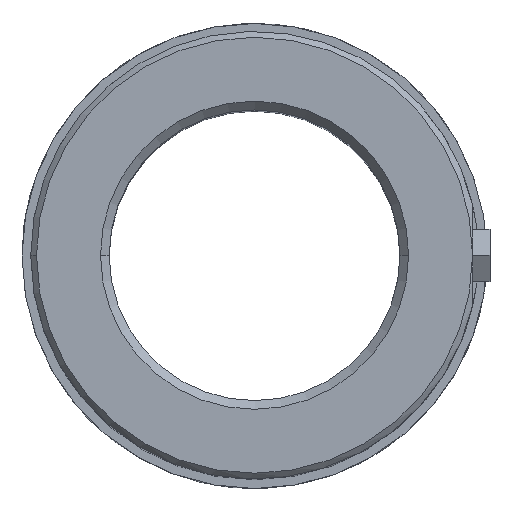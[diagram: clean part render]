
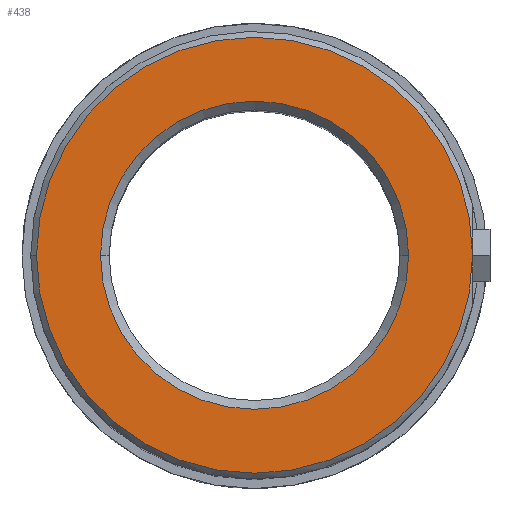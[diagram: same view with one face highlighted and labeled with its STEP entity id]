
A CAD part, top view. The second image highlights one B-rep face of the part: STEP entity #438.
In plain terms, the highlighted planar face has unit normal (0, 0, 1).
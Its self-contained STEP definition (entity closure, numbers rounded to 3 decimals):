
#320=CARTESIAN_POINT('Axis2P3D Location',(0.,0.,80.)) ;
#324=CARTESIAN_POINT('Vertex',(26.5,0.,80.)) ;
#326=CARTESIAN_POINT('Vertex',(-26.5,0.,80.)) ;
#382=CARTESIAN_POINT('Axis2P3D Location',(0.,0.,80.)) ;
#411=CARTESIAN_POINT('Axis2P3D Location',(26.5,0.,80.)) ;
#416=CARTESIAN_POINT('Axis2P3D Location',(0.,0.,80.)) ;
#420=CARTESIAN_POINT('Vertex',(37.5,0.,80.)) ;
#422=CARTESIAN_POINT('Vertex',(-37.5,0.,80.)) ;
#425=CARTESIAN_POINT('Axis2P3D Location',(0.,0.,80.)) ;
#321=DIRECTION('Axis2P3D Direction',(0.,-0.,1.)) ;
#383=DIRECTION('Axis2P3D Direction',(0.,-0.,1.)) ;
#412=DIRECTION('Axis2P3D Direction',(0.,-0.,1.)) ;
#413=DIRECTION('Axis2P3D XDirection',(1.,0.,0.)) ;
#417=DIRECTION('Axis2P3D Direction',(0.,-0.,1.)) ;
#426=DIRECTION('Axis2P3D Direction',(0.,-0.,1.)) ;
#322=AXIS2_PLACEMENT_3D('Circle Axis2P3D',#320,#321,$) ;
#384=AXIS2_PLACEMENT_3D('Circle Axis2P3D',#382,#383,$) ;
#414=AXIS2_PLACEMENT_3D('Plane Axis2P3D',#411,#412,#413) ;
#418=AXIS2_PLACEMENT_3D('Circle Axis2P3D',#416,#417,$) ;
#427=AXIS2_PLACEMENT_3D('Circle Axis2P3D',#425,#426,$) ;
#431=ORIENTED_EDGE('',*,*,#424,.T.) ;
#432=ORIENTED_EDGE('',*,*,#429,.T.) ;
#435=ORIENTED_EDGE('',*,*,#386,.F.) ;
#436=ORIENTED_EDGE('',*,*,#328,.F.) ;
#437=FACE_BOUND('',#434,.T.) ;
#438=ADVANCED_FACE('742-50',(#433,#437),#415,.T.) ;
#323=CIRCLE('generated circle',#322,26.5) ;
#385=CIRCLE('generated circle',#384,26.5) ;
#419=CIRCLE('generated circle',#418,37.5) ;
#428=CIRCLE('generated circle',#427,37.5) ;
#328=EDGE_CURVE('',#325,#327,#323,.T.) ;
#386=EDGE_CURVE('',#327,#325,#385,.T.) ;
#424=EDGE_CURVE('',#421,#423,#419,.T.) ;
#429=EDGE_CURVE('',#423,#421,#428,.T.) ;
#430=EDGE_LOOP('',(#431,#432)) ;
#434=EDGE_LOOP('',(#435,#436)) ;
#433=FACE_OUTER_BOUND('',#430,.T.) ;
#415=PLANE('Plane',#414) ;
#325=VERTEX_POINT('',#324) ;
#327=VERTEX_POINT('',#326) ;
#421=VERTEX_POINT('',#420) ;
#423=VERTEX_POINT('',#422) ;
